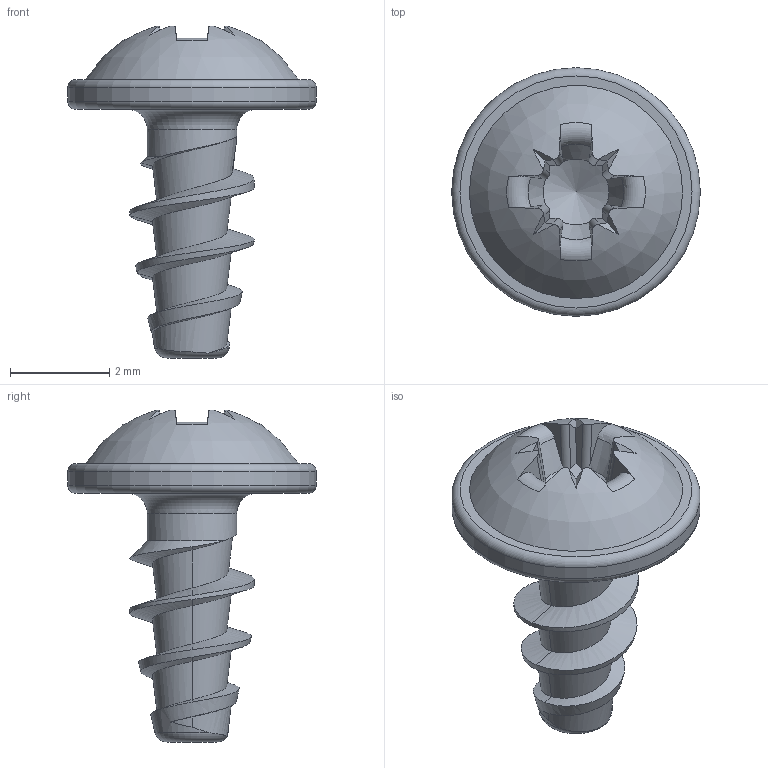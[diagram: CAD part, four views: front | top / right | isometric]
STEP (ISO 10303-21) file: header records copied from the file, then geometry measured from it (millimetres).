
FILE_DESCRIPTION(/* description */ (''),/* implementation_level */ '2;1');
FILE_NAME(/* name */ 'KN1031-Neu-STS-25x5-Z1.step',/* time_stamp */ '2017-10-12T13:36:17+02:00',/* author */ (''),/* organization */ (''),/* preprocessor_version */ 'ST-DEVELOPER v16',/* originating_system */ 'SIEMENS PLM Software NX 10.0',/* authorisation */ '');
FILE_SCHEMA (('AUTOMOTIVE_DESIGN { 1 0 10303 214 3 1 1 1 }'));
Length unit declared in the file: millimetre
Products named in the file (1): KN1031-Neu-STS-25x5-Z1
Bounding box: 5 x 5 x 6.68 mm (x, y, z)
Volume: 30.1 mm3; surface area: 90.8 mm2
Topology: 1 solids, 1 shells, 68 faces, 182 edges, 117 vertices
Faces by surface type: plane 27, bspline 14, cylinder 11, torus 8, cone 7, sphere 1
Full cylindrical faces by diameter (mm): 1.8 x1, 5 x1
Entity records: 3141 total; most frequent: CARTESIAN_POINT 1650, ORIENTED_EDGE 336, DIRECTION 245, EDGE_CURVE 168, VERTEX_POINT 112, AXIS2_PLACEMENT_3D 103, B_SPLINE_CURVE_WITH_KNOTS 81, EDGE_LOOP 77
